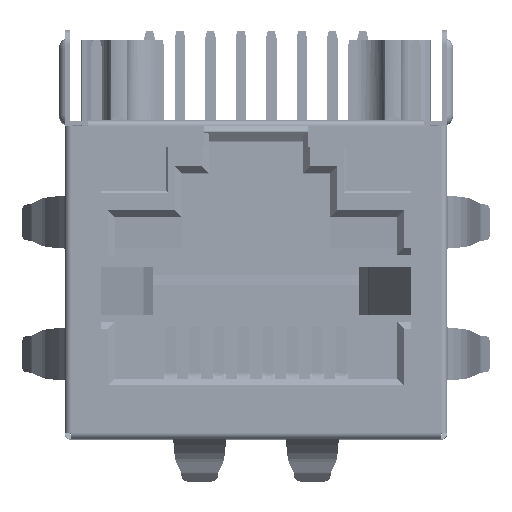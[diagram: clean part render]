
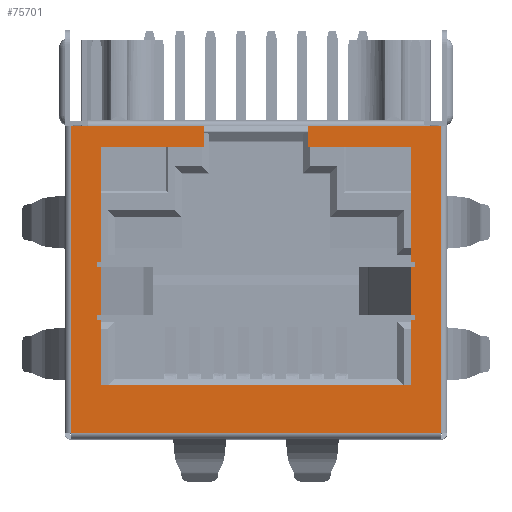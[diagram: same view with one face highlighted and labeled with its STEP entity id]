
A CAD part, top view. The second image highlights one B-rep face of the part: STEP entity #75701.
In plain terms, the highlighted planar face has unit normal (0, 0, 1).
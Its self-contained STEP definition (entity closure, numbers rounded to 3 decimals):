
#69505=DIRECTION('',(-1.,0.,0.));
#69506=VECTOR('',#69505,0.2);
#69507=CARTESIAN_POINT('',(6.645,-5.73,0.25));
#69508=LINE('',#69507,#69506);
#69509=DIRECTION('',(0.,-1.,0.));
#69510=VECTOR('',#69509,2.);
#69511=CARTESIAN_POINT('',(6.445,-5.73,0.25));
#69512=LINE('',#69511,#69510);
#69513=DIRECTION('',(0.,1.,0.));
#69514=VECTOR('',#69513,0.2);
#69515=CARTESIAN_POINT('',(6.645,-5.73,0.25));
#69516=LINE('',#69515,#69514);
#69517=DIRECTION('',(0.,1.,0.));
#69518=VECTOR('',#69517,4.83);
#69519=CARTESIAN_POINT('',(6.45,-5.53,0.25));
#69520=LINE('',#69519,#69518);
#69521=DIRECTION('',(-1.,0.,0.));
#69522=VECTOR('',#69521,4.3);
#69523=CARTESIAN_POINT('',(6.45,-0.7,0.25));
#69524=LINE('',#69523,#69522);
#69525=DIRECTION('',(0.,1.,0.));
#69526=VECTOR('',#69525,0.85);
#69527=CARTESIAN_POINT('',(2.15,-0.7,0.25));
#69528=LINE('',#69527,#69526);
#69529=DIRECTION('',(0.,-1.,0.));
#69530=VECTOR('',#69529,0.85);
#69531=CARTESIAN_POINT('',(-2.15,0.15,0.25));
#69532=LINE('',#69531,#69530);
#69533=DIRECTION('',(-1.,0.,0.));
#69534=VECTOR('',#69533,4.3);
#69535=CARTESIAN_POINT('',(-2.15,-0.7,0.25));
#69536=LINE('',#69535,#69534);
#69537=DIRECTION('',(0.,-1.,0.));
#69538=VECTOR('',#69537,4.83);
#69539=CARTESIAN_POINT('',(-6.45,-0.7,0.25));
#69540=LINE('',#69539,#69538);
#69541=DIRECTION('',(-1.,0.,0.));
#69542=VECTOR('',#69541,0.195);
#69543=CARTESIAN_POINT('',(-6.45,-5.53,0.25));
#69544=LINE('',#69543,#69542);
#69545=DIRECTION('',(0.,-1.,0.));
#69546=VECTOR('',#69545,2.);
#69547=CARTESIAN_POINT('',(-6.445,-5.73,0.25));
#69548=LINE('',#69547,#69546);
#69549=DIRECTION('',(0.,-1.,0.));
#69550=VECTOR('',#69549,0.2);
#69551=CARTESIAN_POINT('',(-6.645,-7.73,0.25));
#69552=LINE('',#69551,#69550);
#69553=DIRECTION('',(0.,-1.,0.));
#69554=VECTOR('',#69553,2.72);
#69555=CARTESIAN_POINT('',(-6.45,-7.93,0.25));
#69556=LINE('',#69555,#69554);
#69557=DIRECTION('',(1.,0.,0.));
#69558=VECTOR('',#69557,12.9);
#69559=CARTESIAN_POINT('',(-6.45,-10.65,0.25));
#69560=LINE('',#69559,#69558);
#69561=DIRECTION('',(0.,1.,0.));
#69562=VECTOR('',#69561,2.72);
#69563=CARTESIAN_POINT('',(6.45,-10.65,0.25));
#69564=LINE('',#69563,#69562);
#69565=DIRECTION('',(1.,0.,0.));
#69566=VECTOR('',#69565,0.195);
#69567=CARTESIAN_POINT('',(6.45,-7.93,0.25));
#69568=LINE('',#69567,#69566);
#69577=DIRECTION('',(1.,0.,0.));
#69578=VECTOR('',#69577,0.195);
#69579=CARTESIAN_POINT('',(6.45,-5.53,0.25));
#69580=LINE('',#69579,#69578);
#69617=DIRECTION('',(-1.,0.,0.));
#69618=VECTOR('',#69617,4.85);
#69619=CARTESIAN_POINT('',(7.,0.15,0.25));
#69620=LINE('',#69619,#69618);
#69625=DIRECTION('',(-1.,0.,0.));
#69626=VECTOR('',#69625,4.85);
#69627=CARTESIAN_POINT('',(-2.15,0.15,0.25));
#69628=LINE('',#69627,#69626);
#69673=DIRECTION('',(-1.,0.,0.));
#69674=VECTOR('',#69673,0.72);
#69675=CARTESIAN_POINT('',(-7.,0.15,0.25));
#69676=LINE('',#69675,#69674);
#70138=DIRECTION('',(0.,-1.,0.));
#70139=VECTOR('',#70138,12.8);
#70140=CARTESIAN_POINT('',(-7.72,0.15,0.25));
#70141=LINE('',#70140,#70139);
#70420=DIRECTION('',(1.,0.,0.));
#70421=VECTOR('',#70420,15.44);
#70422=CARTESIAN_POINT('',(-7.72,-12.65,0.25));
#70423=LINE('',#70422,#70421);
#71142=DIRECTION('',(-1.,0.,0.));
#71143=VECTOR('',#71142,0.72);
#71144=CARTESIAN_POINT('',(7.72,0.15,0.25));
#71145=LINE('',#71144,#71143);
#72394=DIRECTION('',(0.,1.,0.));
#72395=VECTOR('',#72394,12.8);
#72396=CARTESIAN_POINT('',(7.72,-12.65,0.25));
#72397=LINE('',#72396,#72395);
#72478=DIRECTION('',(0.,1.,0.));
#72479=VECTOR('',#72478,0.2);
#72480=CARTESIAN_POINT('',(-6.645,-5.73,0.25));
#72481=LINE('',#72480,#72479);
#72512=DIRECTION('',(-1.,0.,0.));
#72513=VECTOR('',#72512,0.2);
#72514=CARTESIAN_POINT('',(-6.445,-5.73,0.25));
#72515=LINE('',#72514,#72513);
#72550=DIRECTION('',(1.,0.,0.));
#72551=VECTOR('',#72550,0.2);
#72552=CARTESIAN_POINT('',(-6.645,-7.73,0.25));
#72553=LINE('',#72552,#72551);
#72598=DIRECTION('',(-1.,0.,0.));
#72599=VECTOR('',#72598,0.195);
#72600=CARTESIAN_POINT('',(-6.45,-7.93,0.25));
#72601=LINE('',#72600,#72599);
#72634=DIRECTION('',(0.,-1.,0.));
#72635=VECTOR('',#72634,0.2);
#72636=CARTESIAN_POINT('',(6.645,-7.73,0.25));
#72637=LINE('',#72636,#72635);
#72676=DIRECTION('',(1.,0.,0.));
#72677=VECTOR('',#72676,0.2);
#72678=CARTESIAN_POINT('',(6.445,-7.73,0.25));
#72679=LINE('',#72678,#72677);
#73551=CARTESIAN_POINT('',(7.72,-12.65,0.25));
#73553=VERTEX_POINT('',#73551);
#73623=CARTESIAN_POINT('',(6.445,-5.73,0.25));
#73625=VERTEX_POINT('',#73623);
#73637=CARTESIAN_POINT('',(6.645,-5.73,0.25));
#73638=VERTEX_POINT('',#73637);
#73639=CARTESIAN_POINT('',(6.445,-7.73,0.25));
#73640=VERTEX_POINT('',#73639);
#73643=CARTESIAN_POINT('',(6.645,-5.53,0.25));
#73644=VERTEX_POINT('',#73643);
#73645=CARTESIAN_POINT('',(6.45,-5.53,0.25));
#73646=VERTEX_POINT('',#73645);
#73647=CARTESIAN_POINT('',(6.45,-0.7,0.25));
#73648=VERTEX_POINT('',#73647);
#73649=CARTESIAN_POINT('',(2.15,-0.7,0.25));
#73650=VERTEX_POINT('',#73649);
#73651=CARTESIAN_POINT('',(2.15,0.15,0.25));
#73652=VERTEX_POINT('',#73651);
#73653=CARTESIAN_POINT('',(7.,0.15,0.25));
#73654=VERTEX_POINT('',#73653);
#73655=CARTESIAN_POINT('',(7.72,0.15,0.25));
#73656=VERTEX_POINT('',#73655);
#73657=CARTESIAN_POINT('',(-7.72,-12.65,0.25));
#73658=VERTEX_POINT('',#73657);
#73659=CARTESIAN_POINT('',(-7.72,0.15,0.25));
#73660=VERTEX_POINT('',#73659);
#73661=CARTESIAN_POINT('',(-7.,0.15,0.25));
#73662=VERTEX_POINT('',#73661);
#73663=CARTESIAN_POINT('',(-2.15,0.15,0.25));
#73664=VERTEX_POINT('',#73663);
#73665=CARTESIAN_POINT('',(-2.15,-0.7,0.25));
#73666=VERTEX_POINT('',#73665);
#73667=CARTESIAN_POINT('',(-6.45,-0.7,0.25));
#73668=VERTEX_POINT('',#73667);
#73669=CARTESIAN_POINT('',(-6.45,-5.53,0.25));
#73670=VERTEX_POINT('',#73669);
#73671=CARTESIAN_POINT('',(-6.645,-5.53,0.25));
#73672=VERTEX_POINT('',#73671);
#73673=CARTESIAN_POINT('',(-6.645,-5.73,0.25));
#73674=VERTEX_POINT('',#73673);
#73675=CARTESIAN_POINT('',(-6.445,-5.73,0.25));
#73676=VERTEX_POINT('',#73675);
#73677=CARTESIAN_POINT('',(-6.445,-7.73,0.25));
#73678=VERTEX_POINT('',#73677);
#73679=CARTESIAN_POINT('',(-6.645,-7.73,0.25));
#73680=VERTEX_POINT('',#73679);
#73681=CARTESIAN_POINT('',(-6.645,-7.93,0.25));
#73682=VERTEX_POINT('',#73681);
#73683=CARTESIAN_POINT('',(-6.45,-7.93,0.25));
#73684=VERTEX_POINT('',#73683);
#73685=CARTESIAN_POINT('',(-6.45,-10.65,0.25));
#73686=VERTEX_POINT('',#73685);
#73687=CARTESIAN_POINT('',(6.45,-10.65,0.25));
#73688=VERTEX_POINT('',#73687);
#73689=CARTESIAN_POINT('',(6.45,-7.93,0.25));
#73690=VERTEX_POINT('',#73689);
#73691=CARTESIAN_POINT('',(6.645,-7.93,0.25));
#73692=VERTEX_POINT('',#73691);
#73693=CARTESIAN_POINT('',(6.645,-7.73,0.25));
#73694=VERTEX_POINT('',#73693);
#75636=CARTESIAN_POINT('',(7.97,-12.9,0.25));
#75637=DIRECTION('',(0.,0.,-1.));
#75638=DIRECTION('',(-1.,0.,0.));
#75639=AXIS2_PLACEMENT_3D('',#75636,#75637,#75638);
#75640=PLANE('',#75639);
#75642=ORIENTED_EDGE('',*,*,#75641,.T.);
#75644=ORIENTED_EDGE('',*,*,#75643,.F.);
#75646=ORIENTED_EDGE('',*,*,#75645,.T.);
#75648=ORIENTED_EDGE('',*,*,#75647,.T.);
#75650=ORIENTED_EDGE('',*,*,#75649,.T.);
#75652=ORIENTED_EDGE('',*,*,#75651,.F.);
#75654=ORIENTED_EDGE('',*,*,#75653,.F.);
#75656=ORIENTED_EDGE('',*,*,#75655,.F.);
#75658=ORIENTED_EDGE('',*,*,#75657,.F.);
#75660=ORIENTED_EDGE('',*,*,#75659,.F.);
#75662=ORIENTED_EDGE('',*,*,#75661,.F.);
#75664=ORIENTED_EDGE('',*,*,#75663,.F.);
#75666=ORIENTED_EDGE('',*,*,#75665,.T.);
#75668=ORIENTED_EDGE('',*,*,#75667,.T.);
#75670=ORIENTED_EDGE('',*,*,#75669,.T.);
#75672=ORIENTED_EDGE('',*,*,#75671,.T.);
#75674=ORIENTED_EDGE('',*,*,#75673,.F.);
#75676=ORIENTED_EDGE('',*,*,#75675,.F.);
#75678=ORIENTED_EDGE('',*,*,#75677,.T.);
#75680=ORIENTED_EDGE('',*,*,#75679,.F.);
#75682=ORIENTED_EDGE('',*,*,#75681,.T.);
#75684=ORIENTED_EDGE('',*,*,#75683,.F.);
#75686=ORIENTED_EDGE('',*,*,#75685,.T.);
#75688=ORIENTED_EDGE('',*,*,#75687,.T.);
#75690=ORIENTED_EDGE('',*,*,#75689,.T.);
#75692=ORIENTED_EDGE('',*,*,#75691,.T.);
#75694=ORIENTED_EDGE('',*,*,#75693,.F.);
#75696=ORIENTED_EDGE('',*,*,#75695,.F.);
#75697=ORIENTED_EDGE('',*,*,#75627,.F.);
#75698=ORIENTED_EDGE('',*,*,#75616,.F.);
#75699=EDGE_LOOP('',(#75642,#75644,#75646,#75648,#75650,#75652,#75654,#75656,
#75658,#75660,#75662,#75664,#75666,#75668,#75670,#75672,#75674,#75676,#75678,
#75680,#75682,#75684,#75686,#75688,#75690,#75692,#75694,#75696,#75697,#75698));
#75700=FACE_OUTER_BOUND('',#75699,.F.);
#75616=EDGE_CURVE('',#73638,#73625,#69508,.T.);
#75627=EDGE_CURVE('',#73625,#73640,#69512,.T.);
#75641=EDGE_CURVE('',#73638,#73644,#69516,.T.);
#75643=EDGE_CURVE('',#73646,#73644,#69580,.T.);
#75645=EDGE_CURVE('',#73646,#73648,#69520,.T.);
#75647=EDGE_CURVE('',#73648,#73650,#69524,.T.);
#75649=EDGE_CURVE('',#73650,#73652,#69528,.T.);
#75651=EDGE_CURVE('',#73654,#73652,#69620,.T.);
#75653=EDGE_CURVE('',#73656,#73654,#71145,.T.);
#75655=EDGE_CURVE('',#73553,#73656,#72397,.T.);
#75657=EDGE_CURVE('',#73658,#73553,#70423,.T.);
#75659=EDGE_CURVE('',#73660,#73658,#70141,.T.);
#75661=EDGE_CURVE('',#73662,#73660,#69676,.T.);
#75663=EDGE_CURVE('',#73664,#73662,#69628,.T.);
#75665=EDGE_CURVE('',#73664,#73666,#69532,.T.);
#75667=EDGE_CURVE('',#73666,#73668,#69536,.T.);
#75669=EDGE_CURVE('',#73668,#73670,#69540,.T.);
#75671=EDGE_CURVE('',#73670,#73672,#69544,.T.);
#75673=EDGE_CURVE('',#73674,#73672,#72481,.T.);
#75675=EDGE_CURVE('',#73676,#73674,#72515,.T.);
#75677=EDGE_CURVE('',#73676,#73678,#69548,.T.);
#75679=EDGE_CURVE('',#73680,#73678,#72553,.T.);
#75681=EDGE_CURVE('',#73680,#73682,#69552,.T.);
#75683=EDGE_CURVE('',#73684,#73682,#72601,.T.);
#75685=EDGE_CURVE('',#73684,#73686,#69556,.T.);
#75687=EDGE_CURVE('',#73686,#73688,#69560,.T.);
#75689=EDGE_CURVE('',#73688,#73690,#69564,.T.);
#75691=EDGE_CURVE('',#73690,#73692,#69568,.T.);
#75693=EDGE_CURVE('',#73694,#73692,#72637,.T.);
#75695=EDGE_CURVE('',#73640,#73694,#72679,.T.);
#75701=ADVANCED_FACE('',(#75700),#75640,.F.);
